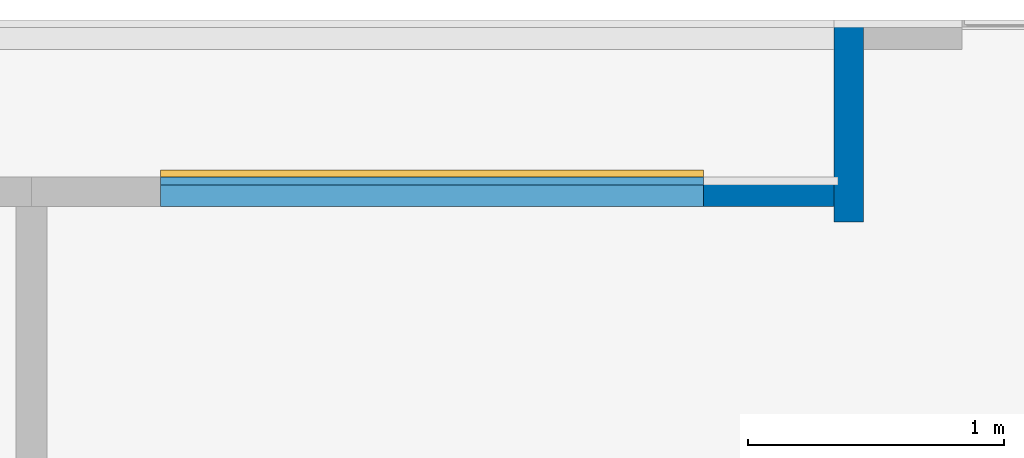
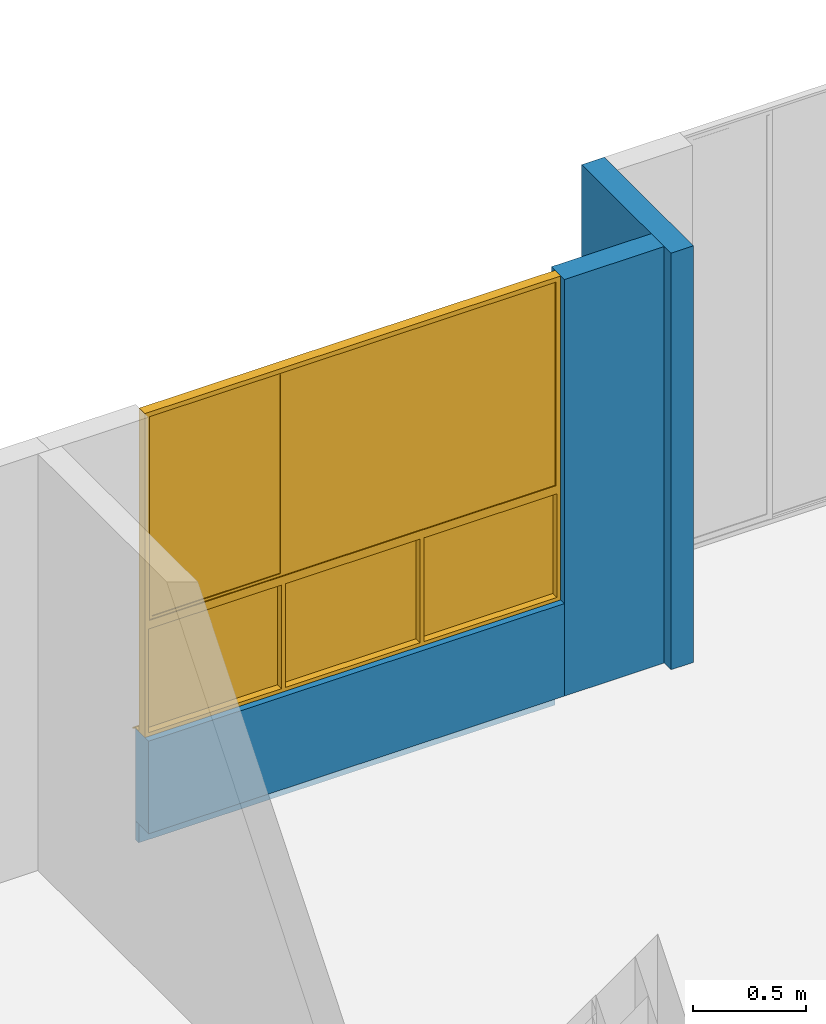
# One storey, part 24 of 51: 4 walls, 1 window, 1 opening.
"""IFC4 building model written with IfcOpenShell, lengths in metres."""

import ifcopenshell
import ifcopenshell.guid

model = None  # the IFC model being written
_history = None  # IfcOwnerHistory: only IFC2X3 demands one
_inside = {}  # id of a spatial element -> (the spatial element, [elements in it])
_under = {}  # id of a project, library or spatial element -> (it, [spatial elements below it])
_declared = {}  # id of a project -> (the project, [libraries it declares])
_typed = {}  # id of a type object -> (the type object, [elements of that type])
_made_of = {}  # id of a material, layer set ... -> (it, [elements and type objects made of it])


def new_model(schema):
    """Start an empty IFC model of exactly this schema.

    Asked for "IFC4X3", IfcOpenShell would pick the latest addendum, in which some entities
    have other attributes; the version numbers below select the first issue.
    IFC2X3 requires an IfcOwnerHistory on every rooted entity: one is made here for all.
    """
    global model, _history
    if schema == "IFC4X3":
        model = ifcopenshell.file(schema_version=(4, 3, 0, 0))
    else:
        model = ifcopenshell.file(schema=schema)
    _inside.clear()
    _under.clear()
    _declared.clear()
    _typed.clear()
    _made_of.clear()
    _history = None
    if model.schema == "IFC2X3":
        org = make("IfcOrganization", Name="unknown")
        user = make(
            "IfcPersonAndOrganization",
            ThePerson=make("IfcPerson", FamilyName="unknown"),
            TheOrganization=org,
        )
        app = make(
            "IfcApplication",
            ApplicationDeveloper=org,
            Version="unknown",
            ApplicationFullName="unknown",
            ApplicationIdentifier="unknown",
        )
        _history = make(
            "IfcOwnerHistory",
            OwningUser=user,
            OwningApplication=app,
            ChangeAction="ADDED",
            CreationDate=0,
        )
    return model


def make(cls, **values):
    """One entity of the class cls with the attributes given. An attribute that is None is left unset."""
    return model.create_entity(
        cls, **{name: value for name, value in values.items() if value is not None}
    )


def entity(cls, *values):
    """Any entity or typed value of the class cls, its attributes in the order of the schema. None: left unset."""
    e = model.create_entity(cls)
    for i, value in enumerate(values):
        if value is not None:
            e[i] = value
    return e


def rooted(cls, **values):
    """An entity with a GlobalId (a new one), such as an element, a storey or a relation."""
    return make(cls, GlobalId=ifcopenshell.guid.new(), OwnerHistory=_history, **values)


def si_unit(unit_type, name, prefix=None):
    """IfcSIUnit, for example si_unit("LENGTHUNIT", "METRE", prefix="MILLI")."""
    return make("IfcSIUnit", UnitType=unit_type, Prefix=prefix, Name=name)


def converted_unit(unit_type, name, factor, base, dimensions=None, offset=None):
    """IfcConversionBasedUnit, such as the inch: factor (a typed value) times the base unit."""
    return make(
        "IfcConversionBasedUnit"
        if offset is None
        else "IfcConversionBasedUnitWithOffset",
        ConversionOffset=offset,
        Dimensions=None
        if dimensions is None
        else entity("IfcDimensionalExponents", *dimensions),
        UnitType=unit_type,
        Name=name,
        ConversionFactor=make(
            "IfcMeasureWithUnit", ValueComponent=factor, UnitComponent=base
        ),
    )


def derived_unit(unit_type, elements):
    """IfcDerivedUnit: a product of units, each with its exponent."""
    return make(
        "IfcDerivedUnit",
        Elements=[
            make("IfcDerivedUnitElement", Unit=unit, Exponent=power)
            for unit, power in elements
        ],
        UnitType=unit_type,
    )


def assignment(units):
    """IfcUnitAssignment: the units of a project."""
    return None if units is None else make("IfcUnitAssignment", Units=units)


def point(xyz):
    """IfcCartesianPoint."""
    return None if xyz is None else make("IfcCartesianPoint", Coordinates=xyz)


def direction(xyz):
    """IfcDirection."""
    return None if xyz is None else make("IfcDirection", DirectionRatios=xyz)


def frame(location, z_axis=None, x_axis=None):
    """IfcAxis2Placement3D, a coordinate frame: its origin and axes. An axis left out is left unset."""
    return make(
        "IfcAxis2Placement3D",
        Location=point(location),
        Axis=direction(z_axis),
        RefDirection=direction(x_axis),
    )


def origin():
    """The frame at (0, 0, 0) with its axes left unset."""
    return frame((0.0, 0.0, 0.0))


def place(relative_to, where):
    """IfcLocalPlacement: puts the frame where relative to a parent placement (None: the world)."""
    return make(
        "IfcLocalPlacement", PlacementRelTo=relative_to, RelativePlacement=where
    )


def context(
    kind, dimensions, precision=None, world=None, true_north=None, identifier=None
):
    """IfcGeometricRepresentationContext, for example the 3D "Model" context."""
    return make(
        "IfcGeometricRepresentationContext",
        ContextIdentifier=identifier,
        ContextType=kind,
        CoordinateSpaceDimension=dimensions,
        Precision=precision,
        WorldCoordinateSystem=world,
        TrueNorth=true_north,
    )


def subcontext(parent, identifier, kind, view, scale=None):
    """IfcGeometricRepresentationSubContext, for example "Body" below "Model"."""
    return make(
        "IfcGeometricRepresentationSubContext",
        ContextIdentifier=identifier,
        ContextType=kind,
        ParentContext=parent,
        TargetScale=scale,
        TargetView=view,
    )


def project(units=None, contexts=None):
    """IfcProject with its units and contexts."""
    return rooted(
        "IfcProject",
        Name="project",
        RepresentationContexts=contexts,
        UnitsInContext=assignment(units),
    )


def spatial(cls, under=None, at=None, **own):
    """A site, building, storey or space (cls), placed at a placement, below another one or the project."""
    s = rooted(cls, ObjectPlacement=at, **own)
    if under is not None:
        _under.setdefault(under.id(), (under, []))[1].append(s)
    return s


def point_list(points):
    """IfcCartesianPointList2D or 3D."""
    cls = (
        "IfcCartesianPointList2D" if len(points[0]) == 2 else "IfcCartesianPointList3D"
    )
    return make(cls, CoordList=points)


def indexed_curve(points, segments=None, self_intersect=None):
    """IfcIndexedPolyCurve: lines and arcs through numbered points (the first is 1)."""
    return make(
        "IfcIndexedPolyCurve",
        Points=point_list(points),
        Segments=segments,
        SelfIntersect=self_intersect,
    )


def outline(outer, holes=None, kind="AREA"):
    """IfcArbitraryClosedProfileDef: a profile drawn as a closed curve; with holes, ...WithVoids."""
    if holes is None:
        return make("IfcArbitraryClosedProfileDef", ProfileType=kind, OuterCurve=outer)
    return make(
        "IfcArbitraryProfileDefWithVoids",
        ProfileType=kind,
        OuterCurve=outer,
        InnerCurves=holes,
    )


def extrude(swept, where, along, depth):
    """IfcExtrudedAreaSolid: the profile swept, set in the frame where, extruded along a direction by depth."""
    return make(
        "IfcExtrudedAreaSolid",
        SweptArea=swept,
        Position=where,
        ExtrudedDirection=direction(along),
        Depth=depth,
    )


def polygons(points, faces, closed=None, point_numbers=None):
    """IfcPolygonalFaceSet: a face is its outer loop, then its inner loops; points numbered from 1."""
    made = []
    for loops in faces:
        if len(loops) == 1:
            made.append(make("IfcIndexedPolygonalFace", CoordIndex=loops[0]))
        else:
            made.append(
                make(
                    "IfcIndexedPolygonalFaceWithVoids",
                    CoordIndex=loops[0],
                    InnerCoordIndices=loops[1:],
                )
            )
    return make(
        "IfcPolygonalFaceSet",
        Coordinates=point_list(points),
        Closed=closed,
        Faces=made,
        PnIndex=point_numbers,
    )


def shape(context_of_items, identifier, shape_type, items):
    """IfcShapeRepresentation: the items that make up one representation, for example the "Body"."""
    return make(
        "IfcShapeRepresentation",
        ContextOfItems=context_of_items,
        RepresentationIdentifier=identifier,
        RepresentationType=shape_type,
        Items=items,
    )


def source(mapping_origin, context_of_items, identifier, shape_type, items):
    """IfcRepresentationMap: a shape defined once, which mapped items show again and again."""
    return make(
        "IfcRepresentationMap",
        MappingOrigin=mapping_origin,
        MappedRepresentation=shape(context_of_items, identifier, shape_type, items),
    )


def transform(
    local_origin,
    x_axis=None,
    y_axis=None,
    z_axis=None,
    scale=None,
    scale2=None,
    scale3=None,
    uniform=True,
):
    """IfcCartesianTransformationOperator3D, or its non-uniform kind. x_axis, y_axis, z_axis: its Axis1, 2, 3."""
    if uniform:
        return make(
            "IfcCartesianTransformationOperator3D",
            Axis1=direction(x_axis),
            Axis2=direction(y_axis),
            LocalOrigin=point(local_origin),
            Scale=scale,
            Axis3=direction(z_axis),
        )
    return make(
        "IfcCartesianTransformationOperator3DnonUniform",
        Axis1=direction(x_axis),
        Axis2=direction(y_axis),
        LocalOrigin=point(local_origin),
        Scale=scale,
        Axis3=direction(z_axis),
        Scale2=scale2,
        Scale3=scale3,
    )


def mapped(mapping_source, mapping_target):
    """IfcMappedItem: shows the shape of a source again, moved by a transform."""
    return make(
        "IfcMappedItem", MappingSource=mapping_source, MappingTarget=mapping_target
    )


def material(Name=None, Category=None):
    """IfcMaterial."""
    return make("IfcMaterial", Name=Name, Category=Category)


def constituent(of_material, Name=None, Category=None, fraction=None):
    """IfcMaterialConstituent: one of the materials an element consists of."""
    return make(
        "IfcMaterialConstituent",
        Name=Name,
        Material=of_material,
        Fraction=fraction,
        Category=Category,
    )


def constituent_set(constituents=None, Name=None):
    """IfcMaterialConstituentSet."""
    return make(
        "IfcMaterialConstituentSet", Name=Name, MaterialConstituents=constituents
    )


def made_of(thing, what):
    """Note that an element or type object is made of a material, layer set ...; save() writes the relation."""
    if what is not None:
        _made_of.setdefault(what.id(), (what, []))[1].append(thing)
    return thing


def type_object(cls, material=None, **own):
    """A type object (cls), such as IfcWallType, which elements share."""
    return made_of(rooted(cls, **own), material)


def type_shapes(of_type, sources):
    """Give a type object the sources (RepresentationMaps) that its elements show as mapped items."""
    of_type.RepresentationMaps = sources


def element(
    cls,
    number,
    at=None,
    inside=None,
    cuts=None,
    type_object=None,
    material=None,
    context=None,
    identifier="Body",
    shape_type=None,
    held_by="IfcProductDefinitionShape",
    body=None,
    shapes=None,
    **own,
):
    """One element of the class cls, such as IfcWall. Its Tag is "e" and its number.

    at: its placement. inside: the storey or other place that contains it. cuts: it is an
    opening in that element (IfcRelVoidsElement). A single representation is given by context,
    identifier, shape_type and body (its items); several are given by shapes. held_by: the class
    of the entity that holds the representations. save() writes the other relations.
    """
    e = rooted(cls, Tag="e%d" % number, ObjectPlacement=at, **own)
    if body is not None:
        shapes = [shape(context, identifier, shape_type, body)]
    if shapes is not None:
        e.Representation = make(held_by, Representations=shapes)
    if inside is not None:
        _inside.setdefault(inside.id(), (inside, []))[1].append(e)
    if cuts is not None:
        rooted(
            "IfcRelVoidsElement", RelatingBuildingElement=cuts, RelatedOpeningElement=e
        )
    if type_object is not None:
        _typed.setdefault(type_object.id(), (type_object, []))[1].append(e)
    return made_of(e, material)


def fill(opening, filler):
    """IfcRelFillsElement: the door or window that sits in an opening."""
    return rooted(
        "IfcRelFillsElement",
        RelatingOpeningElement=opening,
        RelatedBuildingElement=filler,
    )


def aggregate(whole, parts):
    """IfcRelAggregates: a whole, such as a stair, and the parts it consists of."""
    return rooted("IfcRelAggregates", RelatingObject=whole, RelatedObjects=parts)


def save(model, path):
    """Write the relations noted so far, then the file.

    IfcRelAggregates (storeys below a building ...), IfcRelContainedInSpatialStructure (elements
    in a storey), IfcRelDefinesByType, IfcRelAssociatesMaterial and IfcRelDeclares: one each for
    every whole, place, type object, material and project.
    """
    for whole, parts in _under.values():
        aggregate(whole, parts)
    for where, things in _inside.values():
        rooted(
            "IfcRelContainedInSpatialStructure",
            RelatedElements=things,
            RelatingStructure=where,
        )
    for kind, things in _typed.values():
        rooted("IfcRelDefinesByType", RelatedObjects=things, RelatingType=kind)
    for what, things in _made_of.values():
        rooted("IfcRelAssociatesMaterial", RelatedObjects=things, RelatingMaterial=what)
    for by, libraries in _declared.values():
        rooted("IfcRelDeclares", RelatingContext=by, RelatedDefinitions=libraries)
    model.write(path)


model = new_model("IFC4")

# Units and contexts
model_context = context("Model", 3, precision=1e-05, world=origin(), true_north=direction((6.123031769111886e-17, 1.0)))
body_context = subcontext(model_context, "Body", "Model", "MODEL_VIEW")
ifc_project = project(units=[si_unit("LENGTHUNIT", "METRE"), si_unit("AREAUNIT", "SQUARE_METRE"), si_unit("VOLUMEUNIT", "CUBIC_METRE"), converted_unit("PLANEANGLEUNIT", "DEGREE", entity("IfcRatioMeasure", 0.017453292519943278), si_unit("PLANEANGLEUNIT", "RADIAN"), dimensions=[0, 0, 0, 0, 0, 0, 0]), si_unit("MASSUNIT", "GRAM", prefix="KILO"), derived_unit("MASSDENSITYUNIT", [(si_unit("MASSUNIT", "GRAM", prefix="KILO"), 1), (si_unit("LENGTHUNIT", "METRE"), -3)]), derived_unit("IONCONCENTRATIONUNIT", [(si_unit("MASSUNIT", "GRAM", prefix="KILO"), 1), (si_unit("LENGTHUNIT", "METRE"), -3)]), derived_unit("MOMENTOFINERTIAUNIT", [(si_unit("LENGTHUNIT", "METRE"), 4)]), si_unit("TIMEUNIT", "SECOND"), si_unit("FREQUENCYUNIT", "HERTZ"), si_unit("THERMODYNAMICTEMPERATUREUNIT", "DEGREE_CELSIUS"), derived_unit("THERMALTRANSMITTANCEUNIT", [(si_unit("MASSUNIT", "GRAM", prefix="KILO"), 1), (si_unit("THERMODYNAMICTEMPERATUREUNIT", "KELVIN"), -1), (si_unit("TIMEUNIT", "SECOND"), -3)]), derived_unit("THERMALCONDUCTANCEUNIT", [(si_unit("MASSUNIT", "GRAM", prefix="KILO"), 1), (si_unit("THERMODYNAMICTEMPERATUREUNIT", "KELVIN"), -1), (si_unit("TIMEUNIT", "SECOND"), -3), (si_unit("LENGTHUNIT", "METRE"), 1)]), derived_unit("VOLUMETRICFLOWRATEUNIT", [(si_unit("LENGTHUNIT", "METRE"), 3), (si_unit("TIMEUNIT", "SECOND"), -1)]), derived_unit("MASSFLOWRATEUNIT", [(si_unit("MASSUNIT", "GRAM", prefix="KILO"), 1), (si_unit("TIMEUNIT", "SECOND"), -1)]), derived_unit("ROTATIONALFREQUENCYUNIT", [(si_unit("TIMEUNIT", "SECOND"), -1)]), si_unit("ELECTRICCURRENTUNIT", "AMPERE"), si_unit("ELECTRICVOLTAGEUNIT", "VOLT"), si_unit("POWERUNIT", "WATT"), si_unit("FORCEUNIT", "NEWTON", prefix="KILO"), si_unit("ILLUMINANCEUNIT", "LUX"), si_unit("LUMINOUSFLUXUNIT", "LUMEN"), si_unit("LUMINOUSINTENSITYUNIT", "CANDELA"), derived_unit("USERDEFINED", [(si_unit("MASSUNIT", "GRAM", prefix="KILO"), -1), (si_unit("LENGTHUNIT", "METRE"), -2), (si_unit("TIMEUNIT", "SECOND"), 3), (si_unit("LUMINOUSFLUXUNIT", "LUMEN"), 1)]), derived_unit("USERDEFINED", [(si_unit("MASSUNIT", "GRAM", prefix="KILO"), 1), (si_unit("TIMEUNIT", "SECOND"), -3), (si_unit("LENGTHUNIT", "METRE"), 3), (si_unit("ELECTRICCURRENTUNIT", "AMPERE"), -2)]), derived_unit("SOUNDPOWERUNIT", [(si_unit("MASSUNIT", "GRAM", prefix="KILO"), 1), (si_unit("TIMEUNIT", "SECOND"), -3), (si_unit("LENGTHUNIT", "METRE"), 2)]), derived_unit("SOUNDPRESSUREUNIT", [(si_unit("MASSUNIT", "GRAM", prefix="KILO"), 1), (si_unit("LENGTHUNIT", "METRE"), -1), (si_unit("TIMEUNIT", "SECOND"), -2)]), derived_unit("LINEARVELOCITYUNIT", [(si_unit("LENGTHUNIT", "METRE"), 1), (si_unit("TIMEUNIT", "SECOND"), -1)]), si_unit("PRESSUREUNIT", "PASCAL"), derived_unit("USERDEFINED", [(si_unit("MASSUNIT", "GRAM", prefix="KILO"), 1), (si_unit("LENGTHUNIT", "METRE"), -2), (si_unit("TIMEUNIT", "SECOND"), -2)]), derived_unit("LINEARFORCEUNIT", [(si_unit("MASSUNIT", "GRAM", prefix="KILO"), 1), (si_unit("TIMEUNIT", "SECOND"), -2)]), derived_unit("PLANARFORCEUNIT", [(si_unit("MASSUNIT", "GRAM", prefix="KILO"), 1), (si_unit("LENGTHUNIT", "METRE"), -1), (si_unit("TIMEUNIT", "SECOND"), -2)]), derived_unit("SPECIFICHEATCAPACITYUNIT", [(si_unit("THERMODYNAMICTEMPERATUREUNIT", "KELVIN"), -1), (si_unit("LENGTHUNIT", "METRE"), 2), (si_unit("TIMEUNIT", "SECOND"), -2)]), derived_unit("HEATINGVALUEUNIT", [(si_unit("LENGTHUNIT", "METRE"), 2), (si_unit("TIMEUNIT", "SECOND"), -2)]), derived_unit("VAPORPERMEABILITYUNIT", [(si_unit("LENGTHUNIT", "METRE"), -1), (si_unit("TIMEUNIT", "SECOND"), 1)]), derived_unit("DYNAMICVISCOSITYUNIT", [(si_unit("MASSUNIT", "GRAM", prefix="KILO"), 1), (si_unit("TIMEUNIT", "SECOND"), -1), (si_unit("LENGTHUNIT", "METRE"), -1)]), derived_unit("THERMALEXPANSIONCOEFFICIENTUNIT", [(si_unit("THERMODYNAMICTEMPERATUREUNIT", "KELVIN"), -1)]), derived_unit("MODULUSOFELASTICITYUNIT", [(si_unit("MASSUNIT", "GRAM", prefix="KILO"), 1), (si_unit("LENGTHUNIT", "METRE"), -1), (si_unit("TIMEUNIT", "SECOND"), -2)]), derived_unit("ISOTHERMALMOISTURECAPACITYUNIT", [(si_unit("LENGTHUNIT", "METRE"), 3), (si_unit("MASSUNIT", "GRAM", prefix="KILO"), -1)]), derived_unit("MOISTUREDIFFUSIVITYUNIT", [(si_unit("TIMEUNIT", "SECOND"), -1), (si_unit("LENGTHUNIT", "METRE"), 2)])], contexts=[model_context])

# Site, building, storey
site_placement = place(None, origin())
site = spatial("IfcSite", under=ifc_project, at=site_placement, Name="Default", CompositionType="ELEMENT")
building_placement = place(site_placement, origin())
building = spatial("IfcBuilding", under=site, at=building_placement, CompositionType="ELEMENT")
storey_placement = place(building_placement, frame((0.0, 0.0, 2.350000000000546)))
storey = spatial("IfcBuildingStorey", under=building, at=storey_placement, Name="Nivel 2", CompositionType="ELEMENT", Elevation=2.350000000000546)

# Wall
ifc_material_1 = material(Name="Ladrillo claro (Aire)", Category="Materials")
wall_type_1 = type_object("IfcWallType", Name="Basic Wall:B2010 - 0.115m - Muro exterior en mampostería - Ladrillo", PredefinedType="STANDARD")
wall_1_placement = place(storey_placement, frame((12.520000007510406, 0.019999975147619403, 0.0), z_axis=(0.0, 0.0, 1.0), x_axis=(0.0, -1.0, 0.0)))
element("IfcWall", 1, at=wall_1_placement, inside=storey, type_object=wall_type_1, material=ifc_material_1, Name="Basic Wall:B2010 - 0.115m - Muro exterior en mampostería - Ladrillo", ObjectType="Basic Wall:B2010 - 0.115m - Muro exterior en mampostería - Ladrillo", PredefinedType="NOTDEFINED", context=body_context, shape_type="SweptSolid", body=[
    extrude(outline(indexed_curve([(0.7899180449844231, 0.057500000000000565), (1.1341863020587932e-18, 0.057499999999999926), (-1.1341863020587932e-18, -0.057499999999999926), (0.7899180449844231, -0.05749999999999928), (0.7899180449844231, 0.057500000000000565)], self_intersect=False)), origin(), (0.0, 0.0, 1.0), 2.2500000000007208),
])

# Wall, opening, window
wall_2_placement = place(storey_placement, frame((11.952500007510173, -0.6525000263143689, 0.0), z_axis=(0.0, 0.0, 1.0), x_axis=(-1.0, 0.0, 0.0)))
wall_2 = element("IfcWall", 2, at=wall_2_placement, inside=storey, type_object=wall_type_1, material=ifc_material_1, Name="Basic Wall:B2010 - 0.115m - Muro exterior en mampostería - Ladrillo", ObjectType="Basic Wall:B2010 - 0.115m - Muro exterior en mampostería - Ladrillo", PredefinedType="NOTDEFINED", context=body_context, shape_type="Tessellation", body=[
    polygons([(8.702369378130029e-16, -0.057499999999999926, 0.0), (2.1249999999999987, -0.05749999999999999, 0.0), (2.1249999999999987, -0.05749999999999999, 0.49999999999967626), (8.702369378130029e-16, -0.057499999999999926, 0.49999999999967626), (2.1249999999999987, 0.05750000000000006, 0.0), (1.1112318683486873e-15, 0.05750000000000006, 0.0), (1.1112318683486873e-15, 0.05750000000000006, 0.49999999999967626), (2.1249999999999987, 0.05750000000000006, 0.49999999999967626)], [[[1, 2, 3, 4]], [[5, 6, 7, 8]], [[2, 1, 6, 5]], [[2, 5, 8, 3]], [[6, 1, 4, 7]], [[4, 3, 8, 7]]], closed=True),
])
opening_placement = place(wall_2_placement, frame((2.125000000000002, 0.057499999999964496, 0.4999999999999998)))
opening = element("IfcOpeningElement", 3, at=opening_placement, cuts=wall_2, Name="B2020 - 6c Ventana corrediza - Aluminio + Vidrio:B2020 -2.13m x 1.750m - Ventana corrediza 2C - Aluminio + Vidrio:1", PredefinedType="OPENING", context=body_context, shape_type="SweptSolid", body=[
    extrude(outline(indexed_curve([(0.0, -6.998217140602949e-33), (1.7499999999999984, -6.998217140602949e-33), (1.7499999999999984, 2.125), (0.0, 2.125), (0.0, -6.998217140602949e-33)], self_intersect=False)), frame((0.0, 0.0, 0.0), z_axis=(0.0, -1.0, 0.0), x_axis=(0.0, 0.0, 1.0)), (0.0, 0.0, 1.0), 0.115),
])
ifc_material_2 = material(Name="Aluminio", Category="Materials")
ifc_constituent_1 = constituent(ifc_material_2, Name="Aluminio", Category="Materials")
ifc_material_3 = material(Name="Vidrio", Category="Materials")
ifc_constituent_2 = constituent(ifc_material_3, Name="Vidrio", Category="Materials")
ifc_material_4 = material(Name="Alfajía en aluminio", Category="Materials")
ifc_constituent_3 = constituent(ifc_material_4, Name="Alfajía en aluminio", Category="Materials")
ifc_constituent_set_1 = constituent_set(constituents=[ifc_constituent_1, ifc_constituent_2, ifc_constituent_3])
ifc_constituent_4 = constituent(ifc_material_2, Name="Aluminio", Category="Materials")
ifc_constituent_5 = constituent(ifc_material_3, Name="Vidrio", Category="Materials")
ifc_constituent_6 = constituent(ifc_material_4, Name="Alfajía en aluminio", Category="Materials")
ifc_constituent_set_2 = constituent_set(constituents=[ifc_constituent_4, ifc_constituent_5, ifc_constituent_6])
window_type = type_object("IfcWindowType", Name="B2020 - 6c Ventana corrediza - Aluminio + Vidrio:B2020 -2.13m x 1.750m - Ventana corrediza 2C - Aluminio + Vidrio", PartitioningType="NOTDEFINED", PredefinedType="WINDOW", material=ifc_constituent_set_2)
shared_shape = source(origin(), body_context, "Body", "Tessellation", [
    polygons([(0.024999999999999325, 0.03749999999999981, 1.7249999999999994), (0.025000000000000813, 0.032499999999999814, 1.7249999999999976), (0.025000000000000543, 0.032499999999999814, 0.6249999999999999), (0.024999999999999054, 0.03749999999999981, 0.6249999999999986), (2.1249999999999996, 0.03249999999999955, 0.5999999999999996), (2.1249999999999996, 0.03249999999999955, 1.749999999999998), (5.414335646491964e-16, 0.032499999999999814, 1.749999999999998), (2.707167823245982e-16, 0.032499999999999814, 0.5999999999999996), (2.099999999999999, 0.03249999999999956, 0.6249999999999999), (2.099999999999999, 0.032499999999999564, 1.7249999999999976), (2.1000000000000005, 0.03749999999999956, 0.6249999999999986), (2.1000000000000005, 0.03749999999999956, 1.7249999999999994), (2.1050000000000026, 0.03749999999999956, 0.6199999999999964), (0.01999999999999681, 0.03749999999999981, 0.6199999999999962), (0.01999999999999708, 0.03749999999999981, 1.7300000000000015), (2.1050000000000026, 0.03749999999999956, 1.7300000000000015), (0.01999999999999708, 0.05499999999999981, 1.7300000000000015), (0.01999999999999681, 0.05499999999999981, 0.6199999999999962), (2.1050000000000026, 0.05499999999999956, 0.6199999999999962), (2.1050000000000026, 0.05499999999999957, 1.7300000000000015), (2.099999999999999, 0.05499999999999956, 0.6249999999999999), (0.025000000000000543, 0.05499999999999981, 0.6249999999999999), (0.025000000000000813, 0.05499999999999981, 1.7249999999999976), (2.099999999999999, 0.05499999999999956, 1.7249999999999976), (0.025000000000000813, 0.05999999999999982, 1.7249999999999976), (0.025000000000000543, 0.05999999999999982, 0.6249999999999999), (2.099999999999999, 0.059999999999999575, 0.6249999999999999), (2.099999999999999, 0.059999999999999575, 1.7249999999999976), (2.119999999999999, 0.05999999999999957, 0.6049999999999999), (0.005000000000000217, 0.05999999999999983, 0.6049999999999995), (0.0050000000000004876, 0.05999999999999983, 1.744999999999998), (2.119999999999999, 0.05999999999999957, 1.744999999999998), (0.0050000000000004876, 0.07749999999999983, 1.744999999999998), (0.005000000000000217, 0.07749999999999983, 0.6049999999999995), (2.119999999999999, 0.07749999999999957, 0.6049999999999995), (2.119999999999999, 0.07749999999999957, 1.744999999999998), (2.099999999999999, 0.07749999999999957, 0.6249999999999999), (0.025000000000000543, 0.07749999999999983, 0.6249999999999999), (0.025000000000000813, 0.07749999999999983, 1.7249999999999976), (2.099999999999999, 0.07749999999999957, 1.7249999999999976), (0.025000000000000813, 0.08249999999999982, 1.7249999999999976), (0.025000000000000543, 0.08249999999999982, 0.6249999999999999), (2.099999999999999, 0.08249999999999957, 0.6249999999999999), (2.099999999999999, 0.08249999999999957, 1.7249999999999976), (2.1249999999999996, 0.08249999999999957, 0.5999999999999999), (2.707167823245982e-16, 0.08249999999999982, 0.5999999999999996), (5.414335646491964e-16, 0.08249999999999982, 1.749999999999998), (2.1249999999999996, 0.08249999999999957, 1.749999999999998)], [[[1, 2, 3, 4]], [[5, 6, 7, 8], [9, 3, 2, 10]], [[4, 3, 9, 11]], [[13, 14, 15, 16], [11, 12, 1, 4]], [[17, 15, 14, 18]], [[18, 14, 13, 19]], [[19, 20, 17, 18], [21, 22, 23, 24]], [[25, 23, 22, 26]], [[26, 22, 21, 27]], [[29, 30, 31, 32], [27, 28, 25, 26]], [[33, 31, 30, 34]], [[34, 30, 29, 35]], [[35, 36, 33, 34], [37, 38, 39, 40]], [[41, 39, 38, 42]], [[42, 38, 37, 43]], [[45, 46, 47, 48], [43, 44, 41, 42]], [[7, 47, 46, 8]], [[8, 46, 45, 5]], [[11, 9, 10, 12]], [[19, 13, 16, 20]], [[27, 21, 24, 28]], [[35, 29, 32, 36]], [[43, 37, 40, 44]], [[5, 45, 48, 6]], [[12, 10, 2, 1]], [[20, 16, 15, 17]], [[28, 24, 23, 25]], [[36, 32, 31, 33]], [[44, 40, 39, 41]], [[6, 48, 47, 7]]], closed=True),
    polygons([(1.4266666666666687, 0.08249999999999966, 0.6249999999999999), (1.4266666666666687, 0.05999999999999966, 0.6249999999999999), (1.406666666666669, 0.05999999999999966, 0.6249999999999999), (1.406666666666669, 0.08249999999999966, 0.6249999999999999), (1.4266666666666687, 0.08249999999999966, 1.7249999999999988), (1.4266666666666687, 0.05999999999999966, 1.7249999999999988), (1.406666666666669, 0.05999999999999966, 1.7249999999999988), (1.406666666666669, 0.08249999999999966, 1.7249999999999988)], [[[1, 2, 3, 4]], [[5, 6, 2, 1]], [[6, 7, 3, 2]], [[7, 8, 4, 3]], [[8, 5, 1, 4]], [[5, 8, 7, 6]]], closed=True),
    polygons([(0.7058333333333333, 0.06674999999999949, 1.7299999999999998), (0.7058333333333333, 0.06674999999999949, 0.6174999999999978), (2.099999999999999, 0.06674999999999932, 0.6174999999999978), (2.099999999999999, 0.06674999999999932, 1.7299999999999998), (0.7058333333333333, 0.0707499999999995, 1.7299999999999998), (0.7058333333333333, 0.0707499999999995, 0.6174999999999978), (2.099999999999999, 0.07074999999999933, 0.6174999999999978), (2.099999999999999, 0.07074999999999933, 1.7299999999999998)], [[[1, 2, 3, 4]], [[2, 1, 5, 6]], [[3, 2, 6, 7]], [[4, 3, 7, 8]], [[5, 8, 7, 6]], [[1, 4, 8, 5]]], closed=True),
    polygons([(0.7058333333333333, 0.07074999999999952, 0.6225000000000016), (0.7058333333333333, 0.06674999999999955, 0.6225000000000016), (2.095000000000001, 0.06674999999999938, 0.6225000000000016), (2.095000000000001, 0.07074999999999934, 0.6225000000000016), (2.0950000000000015, 0.06674999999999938, 1.730000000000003), (2.0950000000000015, 0.07074999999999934, 1.730000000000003), (0.7058333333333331, 0.06674999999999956, 1.730000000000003), (2.0800000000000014, 0.06674999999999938, 1.7150000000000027), (0.7208333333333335, 0.06674999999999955, 1.7150000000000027), (0.7208333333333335, 0.06674999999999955, 0.637500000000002), (2.080000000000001, 0.06674999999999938, 0.637500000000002), (2.080000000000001, 0.07074999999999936, 0.6375000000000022), (0.7208333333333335, 0.07074999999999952, 0.637500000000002), (0.7208333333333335, 0.07074999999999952, 1.7150000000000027), (2.0800000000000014, 0.07074999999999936, 1.7150000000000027), (0.7058333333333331, 0.07074999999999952, 1.730000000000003), (0.7208333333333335, 0.07549999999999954, 0.637500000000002), (2.080000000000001, 0.07549999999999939, 0.637500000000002), (2.0800000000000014, 0.07549999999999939, 1.7150000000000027), (2.1000000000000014, 0.07549999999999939, 0.6175000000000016), (0.7008333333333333, 0.07549999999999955, 0.6175000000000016), (0.7008333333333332, 0.07549999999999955, 1.735000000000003), (2.1000000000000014, 0.07549999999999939, 1.735000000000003), (0.7208333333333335, 0.07549999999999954, 1.7150000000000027), (0.7008333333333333, 0.06199999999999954, 0.6175000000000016), (2.1000000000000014, 0.061999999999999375, 0.6175000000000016), (2.1000000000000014, 0.061999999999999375, 1.735000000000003), (2.080000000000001, 0.06199999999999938, 0.6375000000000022), (0.7208333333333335, 0.06199999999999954, 0.637500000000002), (0.7208333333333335, 0.06199999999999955, 1.7150000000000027), (2.0800000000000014, 0.06199999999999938, 1.7150000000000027), (0.7008333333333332, 0.06199999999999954, 1.735000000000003)], [[[1, 2, 3, 4]], [[4, 3, 5, 6]], [[3, 2, 7, 5], [8, 9, 10, 11]], [[6, 16, 1, 4], [12, 13, 14, 15]], [[17, 13, 12, 18]], [[18, 12, 15, 19]], [[20, 21, 22, 23], [19, 24, 17, 18]], [[25, 21, 20, 26]], [[26, 20, 23, 27]], [[27, 32, 25, 26], [28, 29, 30, 31]], [[10, 29, 28, 11]], [[11, 28, 31, 8]], [[16, 7, 2, 1]], [[24, 14, 13, 17]], [[32, 22, 21, 25]], [[9, 30, 29, 10]], [[6, 5, 7, 16]], [[19, 15, 14, 24]], [[27, 23, 22, 32]], [[8, 31, 30, 9]]], closed=True),
    polygons([(0.025000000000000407, 0.04424999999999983, 1.7299999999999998), (0.025000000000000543, 0.04424999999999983, 0.6174999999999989), (0.713333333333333, 0.04424999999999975, 0.6174999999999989), (0.7133333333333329, 0.04424999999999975, 1.7299999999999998), (0.025000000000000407, 0.04824999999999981, 1.7299999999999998), (0.025000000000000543, 0.04824999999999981, 0.6174999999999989), (0.713333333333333, 0.048249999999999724, 0.6174999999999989), (0.7133333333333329, 0.048249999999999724, 1.7299999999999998)], [[[1, 2, 3, 4]], [[2, 1, 5, 6]], [[3, 2, 6, 7]], [[4, 3, 7, 8]], [[5, 8, 7, 6]], [[1, 4, 8, 5]]], closed=True),
    polygons([(0.025000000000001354, 0.04824999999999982, 0.6224999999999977), (0.025000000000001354, 0.04424999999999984, 0.6224999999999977), (0.713333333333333, 0.044249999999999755, 0.6224999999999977), (0.713333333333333, 0.04824999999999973, 0.6224999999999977), (0.713333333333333, 0.044249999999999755, 1.729999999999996), (0.713333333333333, 0.04824999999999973, 1.729999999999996), (0.025000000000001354, 0.04424999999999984, 1.729999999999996), (0.6983333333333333, 0.044249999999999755, 1.714999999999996), (0.040000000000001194, 0.04424999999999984, 1.714999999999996), (0.040000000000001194, 0.04424999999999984, 0.6374999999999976), (0.6983333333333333, 0.044249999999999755, 0.6374999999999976), (0.6983333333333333, 0.04824999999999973, 0.6374999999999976), (0.040000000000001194, 0.04824999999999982, 0.6374999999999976), (0.040000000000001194, 0.04824999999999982, 1.714999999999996), (0.6983333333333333, 0.04824999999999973, 1.714999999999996), (0.025000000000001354, 0.04824999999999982, 1.729999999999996), (0.040000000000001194, 0.052999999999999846, 0.6374999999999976), (0.6983333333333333, 0.05299999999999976, 0.6374999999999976), (0.6983333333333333, 0.05299999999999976, 1.714999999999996), (0.7183333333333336, 0.052999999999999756, 0.6174999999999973), (0.020000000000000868, 0.052999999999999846, 0.6174999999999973), (0.020000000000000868, 0.052999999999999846, 1.7349999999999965), (0.7183333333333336, 0.05299999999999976, 1.7349999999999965), (0.040000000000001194, 0.052999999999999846, 1.714999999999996), (0.020000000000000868, 0.03949999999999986, 0.6174999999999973), (0.7183333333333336, 0.03949999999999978, 0.6174999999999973), (0.7183333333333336, 0.03949999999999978, 1.7349999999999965), (0.6983333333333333, 0.039499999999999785, 0.6374999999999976), (0.040000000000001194, 0.039499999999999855, 0.6374999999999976), (0.040000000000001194, 0.039499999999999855, 1.714999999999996), (0.6983333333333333, 0.03949999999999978, 1.714999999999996), (0.020000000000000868, 0.03949999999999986, 1.7349999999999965)], [[[1, 2, 3, 4]], [[4, 3, 5, 6]], [[3, 2, 7, 5], [8, 9, 10, 11]], [[6, 16, 1, 4], [12, 13, 14, 15]], [[17, 13, 12, 18]], [[18, 12, 15, 19]], [[20, 21, 22, 23], [19, 24, 17, 18]], [[25, 21, 20, 26]], [[26, 20, 23, 27]], [[27, 32, 25, 26], [28, 29, 30, 31]], [[10, 29, 28, 11]], [[11, 28, 31, 8]], [[16, 7, 2, 1]], [[24, 14, 13, 17]], [[32, 22, 21, 25]], [[9, 30, 29, 10]], [[6, 5, 7, 16]], [[19, 15, 14, 24]], [[27, 23, 22, 32]], [[8, 31, 30, 9]]], closed=True),
    polygons([(2.1049999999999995, 0.04424999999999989, 1.7299999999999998), (0.025000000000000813, 0.04424999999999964, 1.7299999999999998), (0.025000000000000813, 0.04424999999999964, 0.6174999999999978), (2.1049999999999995, 0.04424999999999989, 0.6174999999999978), (0.025000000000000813, 0.04824999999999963, 1.7299999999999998), (0.025000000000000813, 0.04824999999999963, 0.6174999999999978), (2.1049999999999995, 0.04824999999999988, 0.6174999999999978), (2.1049999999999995, 0.04824999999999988, 1.7299999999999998)], [[[1, 2, 3, 4]], [[3, 2, 5, 6]], [[4, 3, 6, 7]], [[1, 4, 7, 8]], [[8, 7, 6, 5]], [[2, 1, 8, 5]]], closed=True),
    polygons([(0.020000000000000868, 0.06674999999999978, 1.7299999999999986), (0.020000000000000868, 0.06674999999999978, 0.6174999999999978), (2.1049999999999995, 0.06674999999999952, 0.6174999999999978), (2.104999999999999, 0.06674999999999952, 1.7299999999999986), (0.020000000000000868, 0.07074999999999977, 1.7299999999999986), (0.020000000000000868, 0.07074999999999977, 0.6174999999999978), (2.1049999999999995, 0.07074999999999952, 0.6174999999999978), (2.104999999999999, 0.07074999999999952, 1.7299999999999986)], [[[1, 2, 3, 4]], [[2, 1, 5, 6]], [[3, 2, 6, 7]], [[4, 3, 7, 8]], [[5, 8, 7, 6]], [[1, 4, 8, 5]]], closed=True),
    polygons([(0.019999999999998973, 0.06813901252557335, 0.5800000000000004), (0.01999999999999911, 0.06813901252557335, 0.019999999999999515), (2.1050000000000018, 0.06813901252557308, 0.019999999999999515), (2.1050000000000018, 0.06813901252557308, 0.5800000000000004), (0.019999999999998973, 0.07213901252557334, 0.5800000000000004), (2.1050000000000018, 0.07213901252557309, 0.5800000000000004), (2.1050000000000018, 0.07213901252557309, 0.019999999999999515), (0.01999999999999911, 0.07213901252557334, 0.019999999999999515)], [[[1, 2, 3, 4]], [[5, 6, 7, 8]], [[2, 1, 5, 8]], [[3, 2, 8, 7]], [[4, 3, 7, 6]], [[1, 4, 6, 5]]], closed=True),
    polygons([(1.4266666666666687, 0.08250000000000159, 0.5799999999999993), (1.406666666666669, 0.08250000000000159, 0.5799999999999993), (1.406666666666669, 0.03250000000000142, 0.5799999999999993), (1.4266666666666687, 0.03250000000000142, 0.5799999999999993), (1.4266666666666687, 0.08250000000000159, 0.019999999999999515), (1.4266666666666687, 0.03250000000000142, 0.019999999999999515), (1.406666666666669, 0.03250000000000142, 0.019999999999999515), (1.406666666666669, 0.08250000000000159, 0.019999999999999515)], [[[1, 2, 3, 4]], [[5, 6, 7, 8]], [[2, 1, 5, 8]], [[3, 2, 8, 7]], [[4, 3, 7, 6]], [[1, 4, 6, 5]]], closed=True),
    polygons([(4.060751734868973e-16, 0.08249999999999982, 4.060751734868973e-16), (2.707167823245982e-16, 0.08249999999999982, 0.5999999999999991), (2.1249999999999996, 0.08249999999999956, 0.5999999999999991), (2.125, 0.08249999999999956, 2.707167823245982e-16), (0.718333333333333, 0.08250000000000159, 0.5799999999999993), (0.718333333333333, 0.08250000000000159, 0.01999999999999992), (2.105, 0.0825000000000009, 0.020000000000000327), (2.105, 0.0825000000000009, 0.5799999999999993), (0.6983333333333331, 0.08250000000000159, 0.01999999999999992), (0.6983333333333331, 0.08250000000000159, 0.5799999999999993), (0.020000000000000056, 0.08250000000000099, 0.5799999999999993), (0.020000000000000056, 0.08250000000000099, 0.020000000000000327), (0.6983333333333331, 0.03250000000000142, 0.01999999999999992), (0.6983333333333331, 0.03250000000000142, 0.5799999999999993), (0.02000000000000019, 0.032499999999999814, 0.020000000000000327), (0.020000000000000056, 0.032499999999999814, 0.5799999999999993), (4.060751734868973e-16, 0.03250000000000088, 0.5999999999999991), (4.060751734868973e-16, 0.03250000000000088, 4.060751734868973e-16), (2.125, 0.0325000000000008, 4.060751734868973e-16), (2.125, 0.0325000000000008, 0.5999999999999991), (0.7183333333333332, 0.03250000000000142, 0.01999999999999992), (0.718333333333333, 0.03250000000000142, 0.5799999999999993), (2.105, 0.03249999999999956, 0.5799999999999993), (2.105, 0.03249999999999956, 0.020000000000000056)], [[[1, 2, 3, 4], [5, 6, 7, 8], [9, 10, 11, 12]], [[10, 9, 13, 14]], [[17, 18, 19, 20], [14, 13, 15, 16], [21, 22, 23, 24]], [[6, 5, 22, 21]], [[11, 16, 15, 12]], [[17, 2, 1, 18]], [[12, 15, 13, 9]], [[18, 1, 4, 19]], [[7, 24, 23, 8]], [[19, 4, 3, 20]], [[8, 23, 22, 5]], [[2, 17, 20, 3]], [[16, 11, 10, 14]], [[24, 7, 6, 21]]], closed=True),
    polygons([(0.7183333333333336, 0.07213901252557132, 0.5849999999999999), (0.7183333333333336, 0.06813901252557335, 0.5849999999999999), (2.1050000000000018, 0.06813901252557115, 0.5849999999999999), (2.1050000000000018, 0.07213901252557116, 0.5849999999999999), (0.7183333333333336, 0.07213901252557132, 0.019999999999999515), (2.1050000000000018, 0.07213901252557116, 0.019999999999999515), (2.1050000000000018, 0.06813901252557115, 0.019999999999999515), (0.7183333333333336, 0.06813901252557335, 0.019999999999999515)], [[[1, 2, 3, 4]], [[5, 6, 7, 8]], [[1, 4, 6, 5]], [[4, 3, 7, 6]], [[3, 2, 8, 7]], [[2, 1, 5, 8]]], closed=True),
    polygons([(-8.121503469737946e-16, 0.11499999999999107, -4.060751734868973e-16), (-8.121503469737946e-16, 0.08249999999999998, -4.060751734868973e-16), (-8.121503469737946e-16, 0.08249999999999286, 0.0049999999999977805), (-8.121503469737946e-16, 0.11633974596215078, 0.0049999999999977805), (-6.767919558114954e-16, 0.14348076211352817, -0.010669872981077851), (-6.767919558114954e-16, 0.1409807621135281, -0.015000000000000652), (2.124999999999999, 0.11499999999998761, -4.060751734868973e-16), (2.124999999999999, 0.14098076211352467, -0.015000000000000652), (2.124999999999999, 0.1434807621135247, -0.010669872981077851), (2.124999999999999, 0.11633974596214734, 0.0049999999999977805), (2.124999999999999, 0.0824999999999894, 0.0049999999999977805), (2.124999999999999, 0.08249999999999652, -4.060751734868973e-16)], [[[1, 2, 3, 4, 5, 6]], [[7, 8, 9, 10, 11, 12]], [[2, 1, 7, 12]], [[3, 2, 12, 11]], [[4, 3, 11, 10]], [[5, 4, 10, 9]], [[6, 5, 9, 8]], [[1, 6, 8, 7]]], closed=True),
    polygons([(0.6983333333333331, 0.07213901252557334, 0.5849999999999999), (0.01999999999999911, 0.07213901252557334, 0.5849999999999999), (0.019999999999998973, 0.06813901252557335, 0.5849999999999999), (0.6983333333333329, 0.06813901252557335, 0.5849999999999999), (0.6983333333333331, 0.07213901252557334, 0.019999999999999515), (0.6983333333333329, 0.06813901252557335, 0.019999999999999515), (0.019999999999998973, 0.06813901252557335, 0.019999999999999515), (0.01999999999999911, 0.07213901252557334, 0.019999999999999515)], [[[1, 2, 3, 4]], [[5, 6, 7, 8]], [[2, 1, 5, 8]], [[3, 2, 8, 7]], [[4, 3, 7, 6]], [[1, 4, 6, 5]]], closed=True),
])
type_shapes(window_type, [shared_shape])
window_placement = place(opening_placement, frame((0.0, 0.0, 0.0), z_axis=(0.0, 0.0, 1.0), x_axis=(-1.0, 0.0, 0.0)))
window = element("IfcWindow", 4, at=window_placement, inside=storey, type_object=window_type, material=ifc_constituent_set_1, Name="B2020 - 6c Ventana corrediza - Aluminio + Vidrio:B2020 -2.13m x 1.750m - Ventana corrediza 2C - Aluminio + Vidrio", ObjectType="B2020 - 6c Ventana corrediza - Aluminio + Vidrio:B2020 -2.13m x 1.750m - Ventana corrediza 2C - Aluminio + Vidrio", OverallHeight=1.7499999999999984, OverallWidth=2.125000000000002, PartitioningType="NOTDEFINED", PredefinedType="WINDOW", context=body_context, shape_type="MappedRepresentation", body=[
    mapped(shared_shape, transform((0.0, 0.0, 0.0), scale=1.0)),
])
fill(opening, window)

# Walls
ifc_material_5 = material(Name="LADRILLO CLARO", Category="Materials")
wall_type_2 = type_object("IfcWallType", Name="Basic Wall:B2010 - 0.115m - ME mampostería no estructural - Ladrillo", PredefinedType="STANDARD")
wall_3_placement = place(storey_placement, frame((12.462500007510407, -0.6525000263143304, 0.0), z_axis=(0.0, 0.0, 1.0), x_axis=(-1.0, 0.0, 0.0)))
element("IfcWall", 5, at=wall_3_placement, inside=storey, type_object=wall_type_2, material=ifc_material_5, Name="Basic Wall:B2010 - 0.115m - ME mampostería no estructural - Ladrillo", ObjectType="Basic Wall:B2010 - 0.115m - ME mampostería no estructural - Ladrillo", PredefinedType="NOTDEFINED", context=body_context, shape_type="SweptSolid", body=[
    extrude(outline(indexed_curve([(0.5100000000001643, 0.05750000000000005), (8.696985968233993e-16, 0.05750000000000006), (-8.6969859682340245e-16, -0.057499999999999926), (0.5100000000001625, -0.05749999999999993), (0.5100000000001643, 0.05750000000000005)], self_intersect=False)), origin(), (0.0, 0.0, 1.0), 2.2500000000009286),
])
wall_type_3 = type_object("IfcWallType", Name="Basic Wall:B2010 - 0.03m - ME enchape  no estructural - Ladrillo", PredefinedType="STANDARD")
wall_4_placement = place(storey_placement, frame((9.827500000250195, -0.6100000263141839, -0.10000000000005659)))
element("IfcWall", 6, at=wall_4_placement, inside=storey, type_object=wall_type_3, material=ifc_material_5, Name="Basic Wall:B2010 - 0.03m - ME enchape  no estructural - Ladrillo", ObjectType="Basic Wall:B2010 - 0.03m - ME enchape  no estructural - Ladrillo", PredefinedType="NOTDEFINED", context=body_context, shape_type="SweptSolid", body=[
    extrude(outline(indexed_curve([(2.125000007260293, 0.014999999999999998), (-4.7460613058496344e-17, 0.014999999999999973), (4.7460613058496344e-17, -0.014999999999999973), (2.125000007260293, -0.014999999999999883), (2.125000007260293, 0.014999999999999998)], self_intersect=False)), origin(), (0.0, 0.0, 1.0), 0.1),
])

save(model, "model.ifc")
